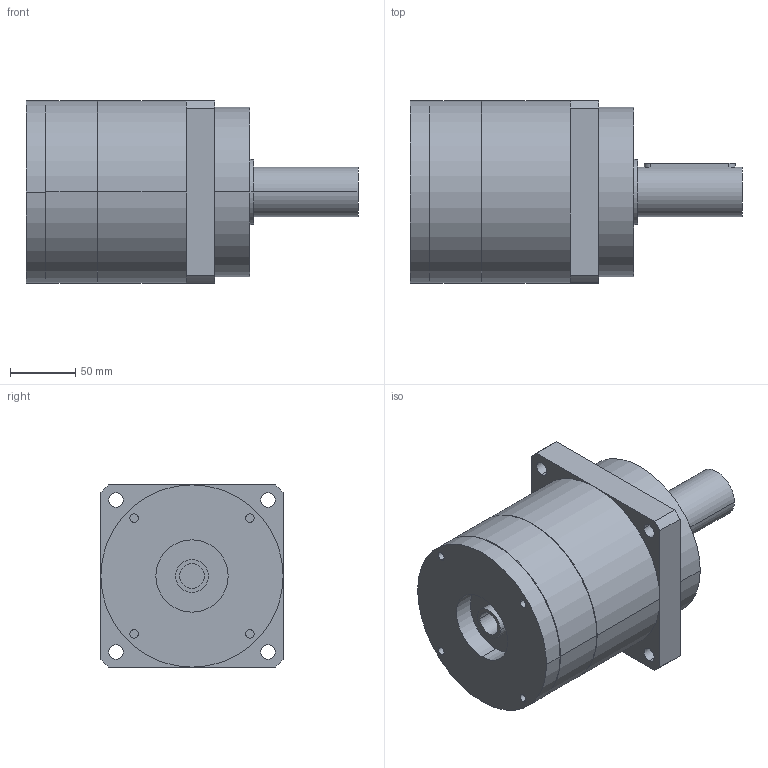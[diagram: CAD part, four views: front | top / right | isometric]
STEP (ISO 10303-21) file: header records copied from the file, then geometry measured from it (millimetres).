
FILE_DESCRIPTION(('CoCreate Modeling STEP Export'),'2;1');
FILE_NAME('GPR150_ig-3-4-5-7_38_B5_19_P01.stp','2014-08-19T16:42:04',(''),(''),'CoCreate Modeling STEP processor for AP214 (Solid Model)','CoCreate Modeling 16.00C 25-Feb-2009 (C) Parametric Technology GmbH','');
FILE_SCHEMA(('AUTOMOTIVE_DESIGN { 1 0 10303 214 1 1 1 1 }'));
Length unit declared in the file: millimetre
Products named in the file (2): GPR150_ig-3-4-5-7_38_B5_19_P01
Assembly tree (1 placements, depth 2):
  GPR150_ig-3-4-5-7_38_B5_19_P01
    GPR150_ig-3-4-5-7_38_B5_19_P01
Bounding box: 255 x 140 x 140 mm (x, y, z)
Volume: 2723661.2 mm3; surface area: 137407.8 mm2
Topology: 1 solids, 1 shells, 85 faces, 216 edges, 148 vertices
Faces by surface type: cylinder 50, plane 29, cone 6
Entity records: 2257 total; most frequent: ORIENTED_EDGE 428, CARTESIAN_POINT 415, DIRECTION 312, EDGE_CURVE 214, VERTEX_POINT 148, AXIS2_PLACEMENT_3D 117, EDGE_LOOP 110, FACE_OUTER_BOUND 85
